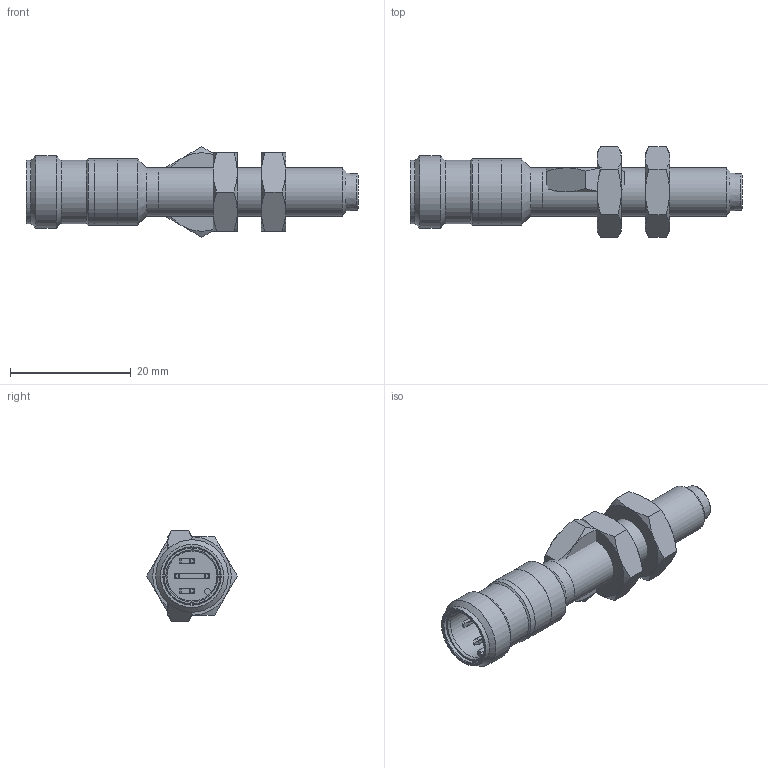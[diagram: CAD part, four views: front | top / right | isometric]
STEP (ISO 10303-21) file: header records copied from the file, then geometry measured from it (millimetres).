
FILE_DESCRIPTION( ( 'Unknown' ), '1' );
FILE_NAME( '//baumerholding.org/frauenfeld/bereich/BECH/Services/me_CAD/Solid Edge/Models/Dokumentationen/Induktiv/IxRx 08/Vereinfachte Modelle/Neutralformate/IFRR 08xx3T1_S14L-9.stp', 'Unknown', ( 'Unknown' ), ( 'Unknown' ), 'PSStep 10.0', 'Unknown', ' ' );
FILE_SCHEMA( ( 'AUTOMOTIVE_DESIGN { 1 0 10303 214 1 1 1 1 }' ) );
Length unit declared in the file: millimetre
Products named in the file (3): Assem1; 101469; IFRR 08xx3T1_S14L-9_oA
Bounding box: 55 x 15.01 x 15.01 mm (x, y, z)
Volume: 7409.7 mm3; surface area: 5637.3 mm2
Topology: 5 solids, 5 shells, 273 faces, 688 edges, 437 vertices
Faces by surface type: plane 150, cylinder 61, cone 60, torus 2
Full cylindrical faces by diameter (mm): 6.917 x3, 8 x4, 9.45 x2, 10.45 x4, 10.99 x2, 11 x4, 12 x2
Entity records: 4590 total; most frequent: CARTESIAN_POINT 757, DIRECTION 616, ORIENTED_EDGE 584, EDGE_CURVE 292, AXIS2_PLACEMENT_3D 218, VERTEX_POINT 199, LINE 180, VECTOR 180
